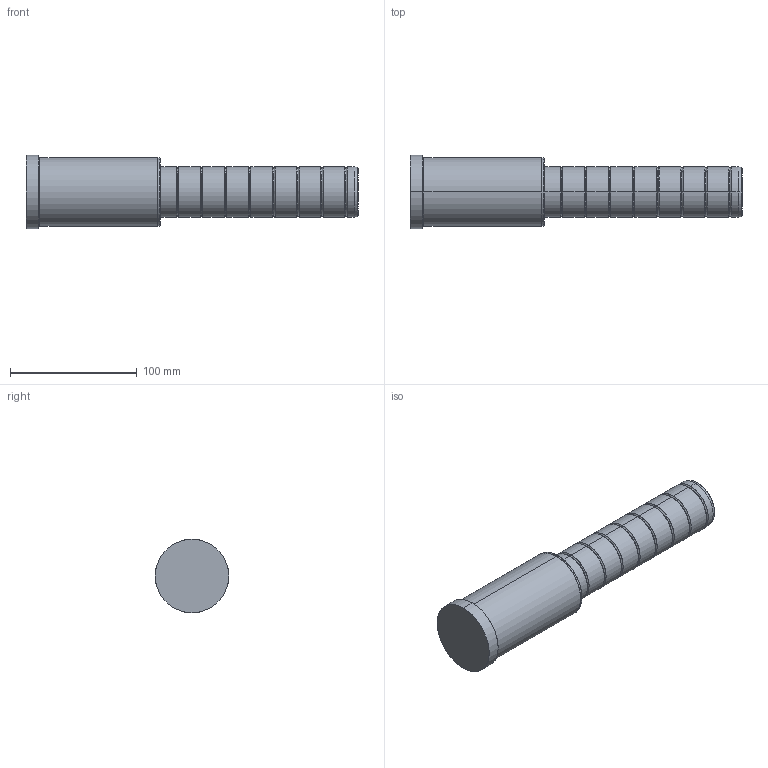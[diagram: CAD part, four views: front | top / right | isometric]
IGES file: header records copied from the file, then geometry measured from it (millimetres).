
Start section: SolidWorks IGES file using analytic representation for surfaces
Global section: file name: C:\Documents and Settings\kalite-mail\Desktop\IGS\D02\40\D02 - 40x106x156.IGS; native system: SolidWorks 2008; preprocessor: SolidWorks 2008; author: kalite-mail; date: 080617.101913; units: millimetre
Bounding box: 262 x 58 x 58 mm (x, y, z)
Surface area: 43854.3 mm2 (no closed solid volume)
Topology: 0 solids, 0 shells, 72 faces, 904 edges, 904 vertices
Faces by surface type: bspline 42, revolution 30
